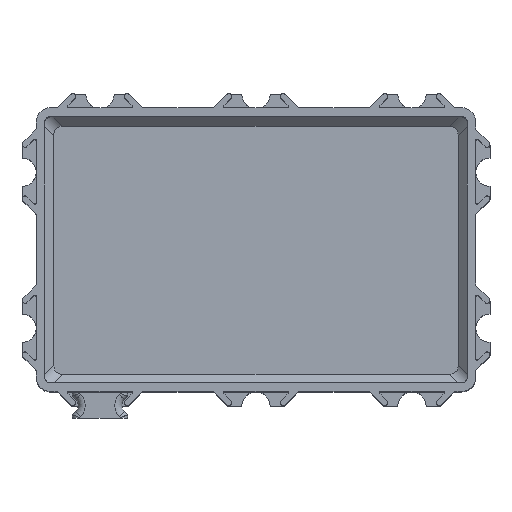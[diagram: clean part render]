
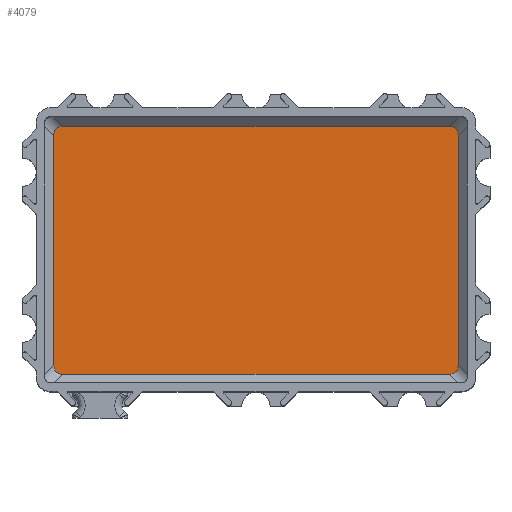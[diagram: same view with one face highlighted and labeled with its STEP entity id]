
A CAD part, top view. The second image highlights one B-rep face of the part: STEP entity #4079.
In plain terms, the highlighted planar face has unit normal (0, 0, 1).
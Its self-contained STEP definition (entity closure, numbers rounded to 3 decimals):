
#324=LINE('',#6720,#684);
#330=LINE('',#6753,#690);
#341=LINE('',#6816,#701);
#343=LINE('',#6819,#703);
#684=VECTOR('',#5507,10.);
#690=VECTOR('',#5527,10.);
#701=VECTOR('',#5564,10.);
#703=VECTOR('',#5568,10.);
#844=PLANE('',#4488);
#1023=FACE_OUTER_BOUND('',#1231,.T.);
#1231=EDGE_LOOP('',(#3400,#3401,#3402,#3403,#3404,#3405,#3406,#3407));
#1322=ELLIPSE('',#4462,3.118,1.8);
#1326=ELLIPSE('',#4470,3.118,1.8);
#1329=ELLIPSE('',#4478,3.118,1.8);
#1331=ELLIPSE('',#4482,3.118,1.8);
#1798=VERTEX_POINT('',#6690);
#1799=VERTEX_POINT('',#6691);
#1804=VERTEX_POINT('',#6719);
#1807=VERTEX_POINT('',#6729);
#1810=VERTEX_POINT('',#6752);
#1814=VERTEX_POINT('',#6779);
#1818=VERTEX_POINT('',#6804);
#1819=VERTEX_POINT('',#6805);
#2326=EDGE_CURVE('',#1798,#1799,#1322,.T.);
#2334=EDGE_CURVE('',#1804,#1798,#324,.T.);
#2339=EDGE_CURVE('',#1807,#1804,#1326,.T.);
#2344=EDGE_CURVE('',#1810,#1807,#330,.T.);
#2351=EDGE_CURVE('',#1814,#1810,#1329,.T.);
#2357=EDGE_CURVE('',#1818,#1819,#1331,.T.);
#2363=EDGE_CURVE('',#1819,#1814,#341,.T.);
#2365=EDGE_CURVE('',#1799,#1818,#343,.T.);
#3400=ORIENTED_EDGE('',*,*,#2326,.T.);
#3401=ORIENTED_EDGE('',*,*,#2365,.T.);
#3402=ORIENTED_EDGE('',*,*,#2357,.T.);
#3403=ORIENTED_EDGE('',*,*,#2363,.T.);
#3404=ORIENTED_EDGE('',*,*,#2351,.T.);
#3405=ORIENTED_EDGE('',*,*,#2344,.T.);
#3406=ORIENTED_EDGE('',*,*,#2339,.T.);
#3407=ORIENTED_EDGE('',*,*,#2334,.T.);
#4079=ADVANCED_FACE('',(#1023),#844,.F.);
#4462=AXIS2_PLACEMENT_3D('',#6692,#5493,#5494);
#4470=AXIS2_PLACEMENT_3D('',#6730,#5517,#5518);
#4478=AXIS2_PLACEMENT_3D('',#6780,#5540,#5541);
#4482=AXIS2_PLACEMENT_3D('',#6806,#5551,#5552);
#4488=AXIS2_PLACEMENT_3D('',#6820,#5569,#5570);
#5493=DIRECTION('center_axis',(0.,0.,1.));
#5494=DIRECTION('ref_axis',(-0.707,0.707,0.));
#5507=DIRECTION('',(-1.,0.,0.));
#5517=DIRECTION('center_axis',(0.,0.,1.));
#5518=DIRECTION('ref_axis',(0.707,0.707,0.));
#5527=DIRECTION('',(0.,1.,0.));
#5540=DIRECTION('center_axis',(0.,0.,1.));
#5541=DIRECTION('ref_axis',(0.707,-0.707,0.));
#5551=DIRECTION('center_axis',(0.,0.,1.));
#5552=DIRECTION('ref_axis',(-0.707,-0.707,0.));
#5564=DIRECTION('',(1.,0.,0.));
#5568=DIRECTION('',(0.,-1.,0.));
#5569=DIRECTION('center_axis',(0.,0.,-1.));
#5570=DIRECTION('ref_axis',(-1.,0.,0.));
#6690=CARTESIAN_POINT('',(5.77,39.503,-60.));
#6691=CARTESIAN_POINT('',(4.497,38.23,-60.));
#6692=CARTESIAN_POINT('Origin',(7.043,36.957,-60.));
#6719=CARTESIAN_POINT('',(60.23,39.503,-60.));
#6720=CARTESIAN_POINT('',(25.25,39.503,-60.));
#6729=CARTESIAN_POINT('',(61.503,38.23,-60.));
#6730=CARTESIAN_POINT('Origin',(58.957,36.957,-60.));
#6752=CARTESIAN_POINT('',(61.503,5.77,-60.));
#6753=CARTESIAN_POINT('',(61.503,27.,-60.));
#6779=CARTESIAN_POINT('',(60.23,4.497,-60.));
#6780=CARTESIAN_POINT('Origin',(58.957,7.043,-60.));
#6804=CARTESIAN_POINT('',(4.497,5.77,-60.));
#6805=CARTESIAN_POINT('',(5.77,4.497,-60.));
#6806=CARTESIAN_POINT('Origin',(7.043,7.043,-60.));
#6816=CARTESIAN_POINT('',(40.75,4.497,-60.));
#6819=CARTESIAN_POINT('',(4.497,17.,-60.));
#6820=CARTESIAN_POINT('Origin',(33.,22.,-60.));
